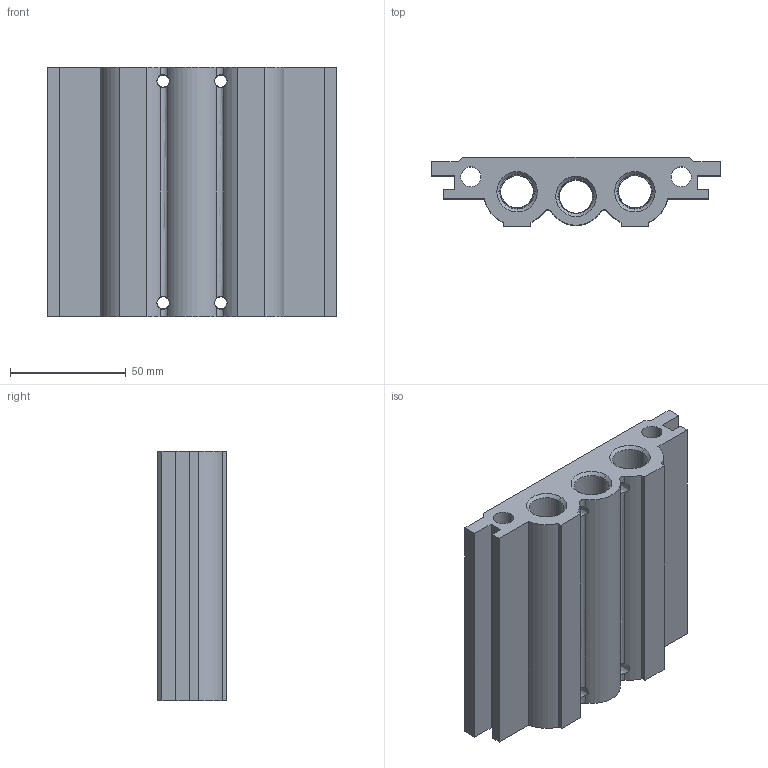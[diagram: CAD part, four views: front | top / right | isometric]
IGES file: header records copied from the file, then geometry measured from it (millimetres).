
Global section: file name: No Iges File Name specified; native system: AutoDesk Inventor R11.0; preprocessor: AutoDesk Inventor Iges Exporter R11.0; author: No Author specified; organization: No Organization specified; date: 20061201.115321; units: millimetre
Bounding box: 125 x 30 x 108 mm (x, y, z)
Volume: 221560.7 mm3; surface area: 65031 mm2
Topology: 1 solids, 1 shells, 171 faces, 453 edges, 298 vertices
Faces by surface type: bspline 110, revolution 28, plane 28, cylinder 5
